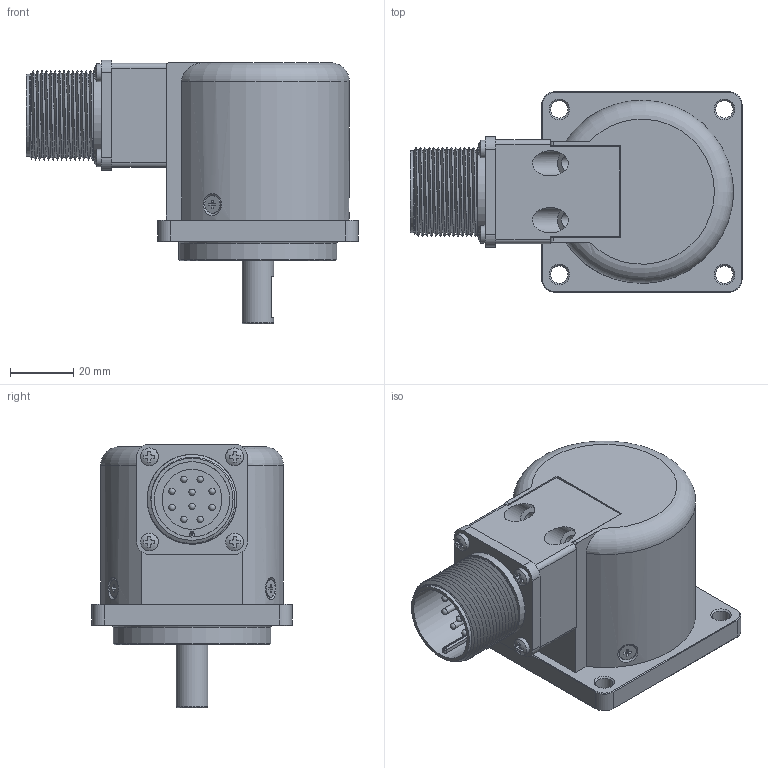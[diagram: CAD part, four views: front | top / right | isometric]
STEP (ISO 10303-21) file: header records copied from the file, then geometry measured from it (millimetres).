
FILE_DESCRIPTION( ( 'Unknown' ), '1' );
FILE_NAME( 'C:/Users/malfermoa/Desktop/step/EL_63E_albero 10 X uscita MR.stp', 'Unknown', ( 'Unknown' ), ( 'Unknown' ), 'PSStep 15.0.49', 'Unknown', ' ' );
FILE_SCHEMA( ( 'AUTOMOTIVE_DESIGN { 1 0 10303 214 1 1 1 1 }' ) );
Length unit declared in the file: millimetre
Products named in the file (1): 41330184B1
Bounding box: 105.25 x 63.5 x 83.6 mm (x, y, z)
Volume: 112596.9 mm3; surface area: 61697.9 mm2
Topology: 1 solids, 7 shells, 691 faces, 1798 edges, 1158 vertices
Faces by surface type: plane 280, cylinder 240, bspline 66, cone 51, torus 42, sphere 12
Full cylindrical faces by diameter (mm): 2 x22, 2.05 x2, 2.2 x12, 2.5 x10, 2.6 x10, 3 x7, 3.5 x3, 4.5 x2, 5.5 x4, 5.6 x7, 6 x1, 7 x1, 8 x2, 10 x10, 10.5 x1, 11 x1, 12 x1, 13.8 x1, 19 x1, 20 x1, 22 x2, 23 x1, 23.9 x1, 25.2 x1, 26 x25, 26.2 x1, 28.4 x1, 49.6 x1, 50 x1, 53.8 x2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
Entity records: 40919 total; most frequent: CARTESIAN_POINT 21601, ORIENTED_EDGE 2808, DIRECTION 2752, EDGE_CURVE 1404, AXIS2_PLACEMENT_3D 1071, VERTEX_POINT 986, EDGE_LOOP 899, FACE_OUTER_BOUND 766
